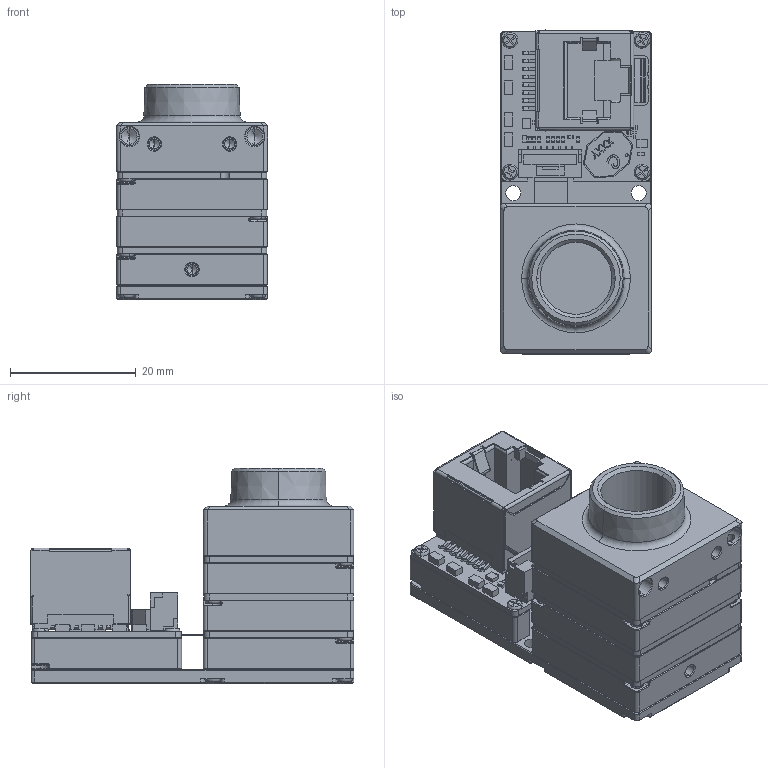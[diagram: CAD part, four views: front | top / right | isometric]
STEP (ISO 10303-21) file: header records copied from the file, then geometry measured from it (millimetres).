
FILE_DESCRIPTION (( 'STEP AP203' ), '1' );
FILE_NAME ('434-018-B_RJ45_180.STEP', '2025-04-21T19:17:18', ( '' ), ( '' ), 'SwSTEP 2.0', 'SolidWorks 2021', '' );
FILE_SCHEMA (( 'CONFIG_CONTROL_DESIGN' ));
Products named in the file (1): 434-018-B_RJ45_180
Bounding box: 24.13 x 51.6 x 34.3 mm (x, y, z)
Volume: 12506 mm3; surface area: 21997.4 mm2
Topology: 58 solids, 58 shells, 5273 faces, 13656 edges, 8411 vertices
Faces by surface type: plane 3017, cylinder 1332, cone 358, bspline 318, torus 162, sphere 86
Entity records: 164457 total; most frequent: CARTESIAN_POINT 37505, ORIENTED_EDGE 26952, DIRECTION 25589, EDGE_CURVE 13476, LINE 9535, VECTOR 9535, VERTEX_POINT 8405, AXIS2_PLACEMENT_3D 8027
